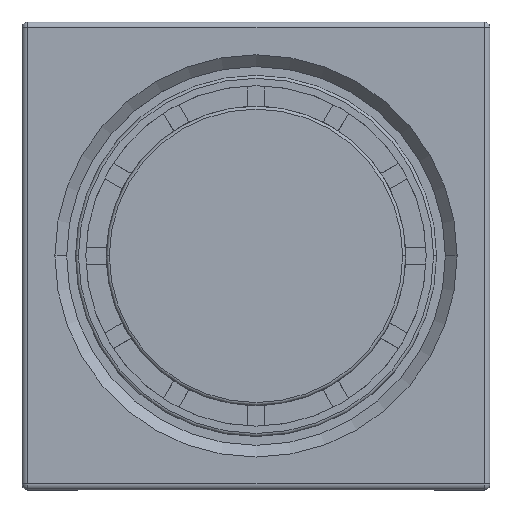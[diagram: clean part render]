
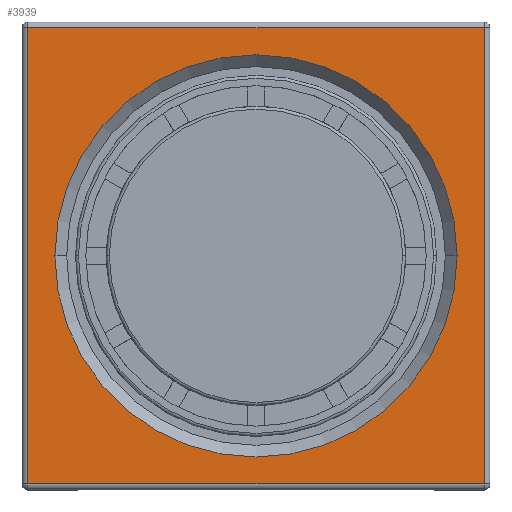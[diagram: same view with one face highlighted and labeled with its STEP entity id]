
A CAD part, top view. The second image highlights one B-rep face of the part: STEP entity #3939.
In plain terms, the highlighted planar face has unit normal (0, 0, 1).
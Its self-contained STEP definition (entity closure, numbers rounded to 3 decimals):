
#553 = VERTEX_POINT ( 'NONE', #8425 ) ;
#557 = VERTEX_POINT ( 'NONE', #8429 ) ;
#715 = ORIENTED_EDGE ( 'NONE', *, *, #4946, .T. ) ;
#757 = ORIENTED_EDGE ( 'NONE', *, *, #4949, .T. ) ;
#758 = ORIENTED_EDGE ( 'NONE', *, *, #4895, .T. ) ;
#874 = ORIENTED_EDGE ( 'NONE', *, *, #4937, .T. ) ;
#912 = ORIENTED_EDGE ( 'NONE', *, *, #3894, .T. ) ;
#1078 = ORIENTED_EDGE ( 'NONE', *, *, #4807, .T. ) ;
#2695 = LINE ( 'NONE', #2696, #5580 ) ;
#2696 = CARTESIAN_POINT ( 'NONE',  ( 0., 38.75, 13.2 ) ) ;
#2697 = DIRECTION ( 'NONE',  ( -1., 0., 0. ) ) ;
#2959 = LINE ( 'NONE', #2960, #5667 ) ;
#2960 = CARTESIAN_POINT ( 'NONE',  ( 0., -38.75, 13.2 ) ) ;
#2961 = DIRECTION ( 'NONE',  ( 1., 0., 0. ) ) ;
#3085 = LINE ( 'NONE', #3086, #5709 ) ;
#3086 = CARTESIAN_POINT ( 'NONE',  ( -38.75, 0., 13.2 ) ) ;
#3087 = DIRECTION ( 'NONE',  ( 0., -1., 0. ) ) ;
#3102 = CARTESIAN_POINT ( 'NONE',  ( 0., 0., 13.2 ) ) ;
#3112 = DIRECTION ( 'NONE',  ( 0., 0., -1. ) ) ;
#3113 = DIRECTION ( 'NONE',  ( -1., 0., 0. ) ) ;
#3121 = LINE ( 'NONE', #3122, #5722 ) ;
#3122 = CARTESIAN_POINT ( 'NONE',  ( 38.75, 0., 13.2 ) ) ;
#3123 = DIRECTION ( 'NONE',  ( 0., 1., 0. ) ) ;
#3579 = CARTESIAN_POINT ( 'NONE',  ( -38.75, -38.75, 13.2 ) ) ;
#3584 = CARTESIAN_POINT ( 'NONE',  ( 38.75, -38.75, 13.2 ) ) ;
#3590 = CARTESIAN_POINT ( 'NONE',  ( -38.75, 38.75, 13.2 ) ) ;
#3591 = CARTESIAN_POINT ( 'NONE',  ( 38.75, 38.75, 13.2 ) ) ;
#3894 = EDGE_CURVE ( 'NONE', #553, #557, #5091, .T. ) ;
#3939 = ADVANCED_FACE ( 'NONE', ( #7765, #7766 ), #8665, .F. ) ;
#4807 = EDGE_CURVE ( 'NONE', #5551, #5550, #2695, .T. ) ;
#4895 = EDGE_CURVE ( 'NONE', #5539, #5544, #2959, .T. ) ;
#4937 = EDGE_CURVE ( 'NONE', #5550, #5539, #3085, .T. ) ;
#4946 = EDGE_CURVE ( 'NONE', #557, #553, #5294, .T. ) ;
#4949 = EDGE_CURVE ( 'NONE', #5544, #5551, #3121, .T. ) ;
#5091 = CIRCLE ( 'NONE', #7888, 34.175 ) ;
#5294 = CIRCLE ( 'NONE', #5698, 34.175 ) ;
#5539 = VERTEX_POINT ( 'NONE', #3579 ) ;
#5544 = VERTEX_POINT ( 'NONE', #3584 ) ;
#5550 = VERTEX_POINT ( 'NONE', #3590 ) ;
#5551 = VERTEX_POINT ( 'NONE', #3591 ) ;
#5580 = VECTOR ( 'NONE', #2697, 1000. ) ;
#5667 = VECTOR ( 'NONE', #2961, 1000. ) ;
#5698 = AXIS2_PLACEMENT_3D ( 'NONE', #3102, #3112, #3113 ) ;
#5709 = VECTOR ( 'NONE', #3087, 1000. ) ;
#5722 = VECTOR ( 'NONE', #3123, 1000. ) ;
#6478 = EDGE_LOOP ( 'NONE', ( #1078, #874, #758, #757 ) ) ;
#6479 = EDGE_LOOP ( 'NONE', ( #912, #715 ) ) ;
#7741 = AXIS2_PLACEMENT_3D ( 'NONE', #8666, #8667, #8668 ) ;
#7765 = FACE_OUTER_BOUND ( 'NONE', #6478, .T. ) ;
#7766 = FACE_BOUND ( 'NONE', #6479, .T. ) ;
#7888 = AXIS2_PLACEMENT_3D ( 'NONE', #8523, #8524, #8525 ) ;
#8425 = CARTESIAN_POINT ( 'NONE',  ( 34.175, 0., 13.2 ) ) ;
#8429 = CARTESIAN_POINT ( 'NONE',  ( -34.175, 0., 13.2 ) ) ;
#8523 = CARTESIAN_POINT ( 'NONE',  ( 0., 0., 13.2 ) ) ;
#8524 = DIRECTION ( 'NONE',  ( 0., 0., -1. ) ) ;
#8525 = DIRECTION ( 'NONE',  ( -1., 0., 0. ) ) ;
#8665 = PLANE ( 'NONE',  #7741 ) ;
#8666 = CARTESIAN_POINT ( 'NONE',  ( 0., 0., 13.2 ) ) ;
#8667 = DIRECTION ( 'NONE',  ( 0., 0., -1. ) ) ;
#8668 = DIRECTION ( 'NONE',  ( -1., 0., 0. ) ) ;
